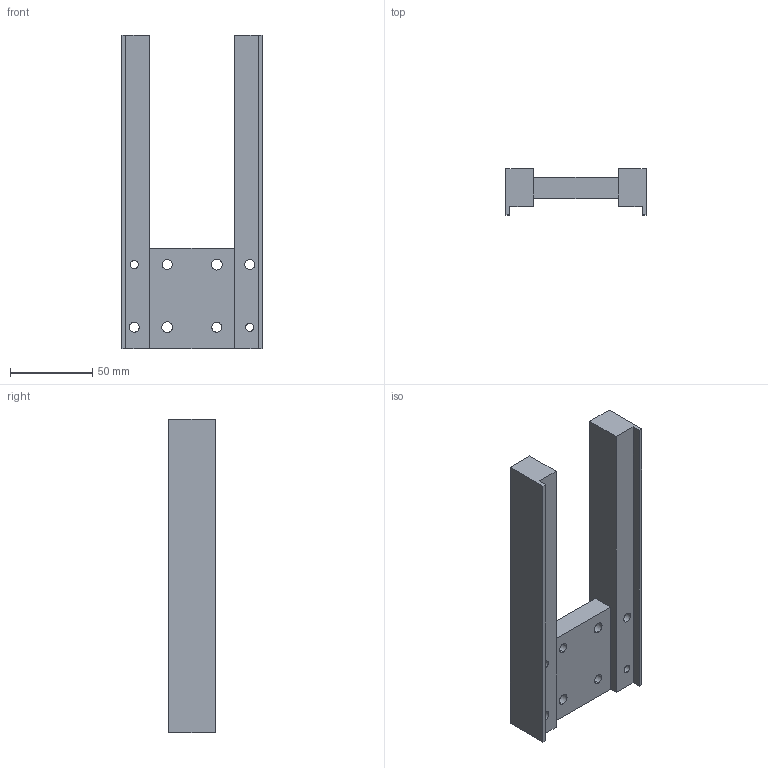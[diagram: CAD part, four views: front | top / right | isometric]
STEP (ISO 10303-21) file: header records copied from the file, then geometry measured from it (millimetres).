
FILE_DESCRIPTION (( 'STEP AP203' ), '1' );
FILE_NAME ('PPE63-P2.step', '2017-02-15T12:25:56', ( '' ), ( '' ), 'SwSTEP 2.0', 'SolidWorks 2012', '' );
FILE_SCHEMA (( 'CONFIG_CONTROL_DESIGN' ));
Length unit declared in the file: millimetre
Products named in the file (1): PPE63-P2
Bounding box: 85 x 28 x 190 mm (x, y, z)
Volume: 185748.5 mm3; surface area: 43956.5 mm2
Topology: 1 solids, 1 shells, 40 faces, 108 edges, 72 vertices
Faces by surface type: cylinder 20, plane 20
Entity records: 1381 total; most frequent: DIRECTION 230, CARTESIAN_POINT 221, ORIENTED_EDGE 216, EDGE_CURVE 108, AXIS2_PLACEMENT_3D 81, VERTEX_POINT 72, LINE 68, VECTOR 68
